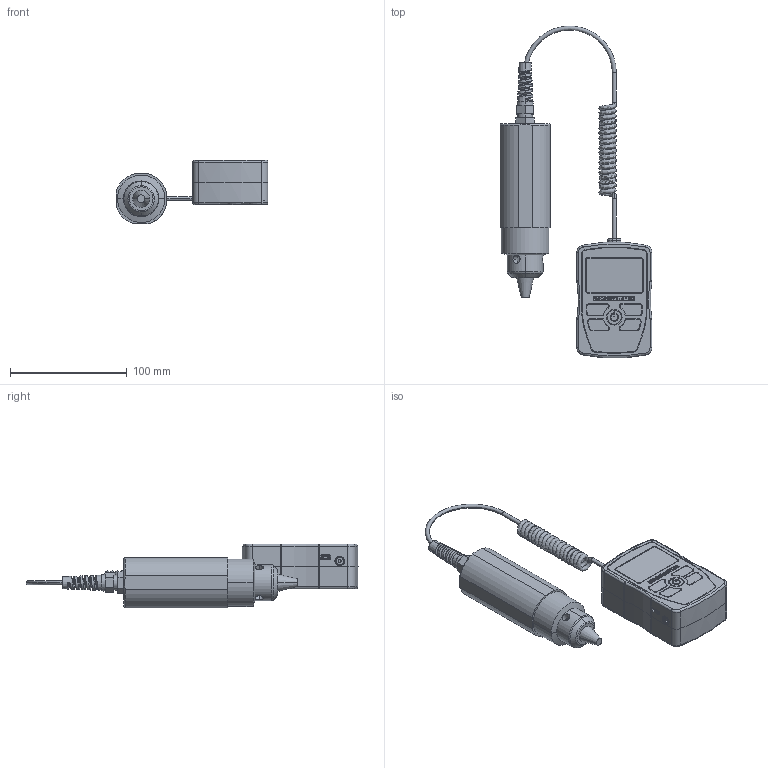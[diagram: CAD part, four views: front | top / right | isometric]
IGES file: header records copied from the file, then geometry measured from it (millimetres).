
Global section: file name: No Iges File Name specified; native system: Autodesk Inventor 2010; preprocessor: AutoDesk Inventor Iges Exporter R2010; author: mlampen; date: 20170601.103135; units: inch
Bounding box: 129.78 x 283.86 x 54.48 mm (x, y, z)
Volume: 421930.2 mm3; surface area: 61992.4 mm2
Topology: 2 solids, 2 shells, 818 faces, 2015 edges, 1270 vertices
Faces by surface type: plane 349, revolution 167, bspline 117, cylinder 106, cone 41, torus 38
